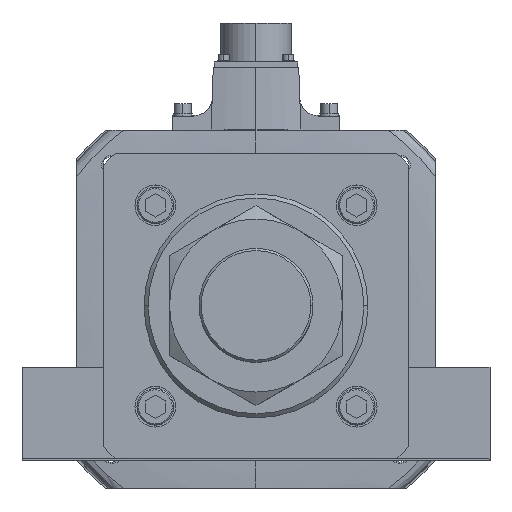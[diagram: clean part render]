
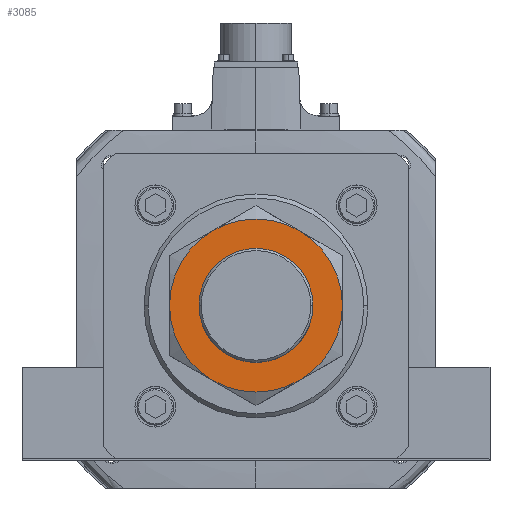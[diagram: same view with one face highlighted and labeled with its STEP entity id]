
A CAD part, top view. The second image highlights one B-rep face of the part: STEP entity #3085.
In plain terms, the highlighted planar face has unit normal (0, 0, 1).
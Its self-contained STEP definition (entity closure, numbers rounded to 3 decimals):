
#81 = VERTEX_POINT ( 'NONE', #46659 ) ;
#216 = CARTESIAN_POINT ( 'NONE',  ( 0., 0., 34. ) ) ;
#699 = EDGE_CURVE ( 'NONE', #18969, #81, #1949, .T. ) ;
#918 = DIRECTION ( 'NONE',  ( 0., 0., -1. ) ) ;
#954 = DIRECTION ( 'NONE',  ( 1., 0., 0. ) ) ;
#1413 = VERTEX_POINT ( 'NONE', #31774 ) ;
#1949 = CIRCLE ( 'NONE', #34308, 42.5 ) ;
#2177 = DIRECTION ( 'NONE',  ( -1., 0., 0. ) ) ;
#3085 = ADVANCED_FACE ( 'NONE', ( #19105, #13099 ), #44301, .T. ) ;
#3773 = VERTEX_POINT ( 'NONE', #33846 ) ;
#3997 = CIRCLE ( 'NONE', #41847, 28. ) ;
#4784 = CARTESIAN_POINT ( 'NONE',  ( -21.25, 36.806, 34. ) ) ;
#4908 = CARTESIAN_POINT ( 'NONE',  ( 21.25, 36.806, 34. ) ) ;
#5022 = DIRECTION ( 'NONE',  ( 1., 0., 0. ) ) ;
#5114 = VERTEX_POINT ( 'NONE', #51938 ) ;
#7110 = AXIS2_PLACEMENT_3D ( 'NONE', #19364, #15259, #44924 ) ;
#7596 = DIRECTION ( 'NONE',  ( 0., 0., -1. ) ) ;
#10892 = AXIS2_PLACEMENT_3D ( 'NONE', #31693, #27727, #27551 ) ;
#11123 = EDGE_CURVE ( 'NONE', #81, #53622, #21593, .T. ) ;
#12418 = CIRCLE ( 'NONE', #17983, 42.5 ) ;
#12644 = EDGE_CURVE ( 'NONE', #5114, #3773, #3997, .T. ) ;
#13099 = FACE_BOUND ( 'NONE', #28859, .T. ) ;
#13550 = EDGE_LOOP ( 'NONE', ( #51448, #15205, #22637, #25312, #32666, #16590 ) ) ;
#14283 = AXIS2_PLACEMENT_3D ( 'NONE', #35226, #39381, #18528 ) ;
#15205 = ORIENTED_EDGE ( 'NONE', *, *, #42595, .F. ) ;
#15259 = DIRECTION ( 'NONE',  ( 0., 0., -1. ) ) ;
#16590 = ORIENTED_EDGE ( 'NONE', *, *, #38048, .F. ) ;
#17518 = VERTEX_POINT ( 'NONE', #37938 ) ;
#17831 = AXIS2_PLACEMENT_3D ( 'NONE', #28779, #7596, #20881 ) ;
#17983 = AXIS2_PLACEMENT_3D ( 'NONE', #47294, #30361, #34310 ) ;
#18528 = DIRECTION ( 'NONE',  ( 1., 0., 0. ) ) ;
#18969 = VERTEX_POINT ( 'NONE', #52539 ) ;
#19030 = CIRCLE ( 'NONE', #7110, 42.5 ) ;
#19105 = FACE_OUTER_BOUND ( 'NONE', #13550, .T. ) ;
#19215 = DIRECTION ( 'NONE',  ( 0., 0., -1. ) ) ;
#19355 = ORIENTED_EDGE ( 'NONE', *, *, #54864, .F. ) ;
#19364 = CARTESIAN_POINT ( 'NONE',  ( 0., 0., 34. ) ) ;
#20881 = DIRECTION ( 'NONE',  ( 1., 0., 0. ) ) ;
#21593 = CIRCLE ( 'NONE', #42865, 42.5 ) ;
#22637 = ORIENTED_EDGE ( 'NONE', *, *, #35197, .F. ) ;
#25312 = ORIENTED_EDGE ( 'NONE', *, *, #11123, .F. ) ;
#26003 = DIRECTION ( 'NONE',  ( 1., 0., 0. ) ) ;
#27551 = DIRECTION ( 'NONE',  ( 1., 0., 0. ) ) ;
#27727 = DIRECTION ( 'NONE',  ( 0., 0., 1. ) ) ;
#28779 = CARTESIAN_POINT ( 'NONE',  ( 0., 0., 34. ) ) ;
#28859 = EDGE_LOOP ( 'NONE', ( #37599, #19355 ) ) ;
#30361 = DIRECTION ( 'NONE',  ( 0., 0., -1. ) ) ;
#31693 = CARTESIAN_POINT ( 'NONE',  ( 0., 0., 34. ) ) ;
#31774 = CARTESIAN_POINT ( 'NONE',  ( 21.25, -36.806, 34. ) ) ;
#32666 = ORIENTED_EDGE ( 'NONE', *, *, #699, .F. ) ;
#33350 = CIRCLE ( 'NONE', #17831, 42.5 ) ;
#33846 = CARTESIAN_POINT ( 'NONE',  ( 28., 0., 34. ) ) ;
#34308 = AXIS2_PLACEMENT_3D ( 'NONE', #52125, #918, #5022 ) ;
#34310 = DIRECTION ( 'NONE',  ( 1., 0., 0. ) ) ;
#35197 = EDGE_CURVE ( 'NONE', #53622, #44041, #33350, .T. ) ;
#35226 = CARTESIAN_POINT ( 'NONE',  ( 0., 0., 34. ) ) ;
#37599 = ORIENTED_EDGE ( 'NONE', *, *, #12644, .F. ) ;
#37938 = CARTESIAN_POINT ( 'NONE',  ( 42.5, 0., 34. ) ) ;
#38048 = EDGE_CURVE ( 'NONE', #1413, #18969, #19030, .T. ) ;
#39381 = DIRECTION ( 'NONE',  ( 0., 0., 1. ) ) ;
#41847 = AXIS2_PLACEMENT_3D ( 'NONE', #216, #47880, #954 ) ;
#42595 = EDGE_CURVE ( 'NONE', #44041, #17518, #48481, .T. ) ;
#42865 = AXIS2_PLACEMENT_3D ( 'NONE', #45709, #19215, #2177 ) ;
#44041 = VERTEX_POINT ( 'NONE', #4908 ) ;
#44301 = PLANE ( 'NONE',  #10892 ) ;
#44924 = DIRECTION ( 'NONE',  ( 1., 0., 0. ) ) ;
#45709 = CARTESIAN_POINT ( 'NONE',  ( 0., 0., 34. ) ) ;
#46659 = CARTESIAN_POINT ( 'NONE',  ( -42.5, 0., 34. ) ) ;
#47294 = CARTESIAN_POINT ( 'NONE',  ( 0., 0., 34. ) ) ;
#47880 = DIRECTION ( 'NONE',  ( 0., 0., 1. ) ) ;
#48481 = CIRCLE ( 'NONE', #50143, 42.5 ) ;
#48729 = EDGE_CURVE ( 'NONE', #17518, #1413, #12418, .T. ) ;
#50143 = AXIS2_PLACEMENT_3D ( 'NONE', #55690, #51366, #26003 ) ;
#51366 = DIRECTION ( 'NONE',  ( 0., 0., -1. ) ) ;
#51448 = ORIENTED_EDGE ( 'NONE', *, *, #48729, .F. ) ;
#51938 = CARTESIAN_POINT ( 'NONE',  ( -28., 0., 34. ) ) ;
#52125 = CARTESIAN_POINT ( 'NONE',  ( 0., 0., 34. ) ) ;
#52539 = CARTESIAN_POINT ( 'NONE',  ( -21.25, -36.806, 34. ) ) ;
#53622 = VERTEX_POINT ( 'NONE', #4784 ) ;
#54864 = EDGE_CURVE ( 'NONE', #3773, #5114, #54872, .T. ) ;
#54872 = CIRCLE ( 'NONE', #14283, 28. ) ;
#55690 = CARTESIAN_POINT ( 'NONE',  ( 0., 0., 34. ) ) ;
